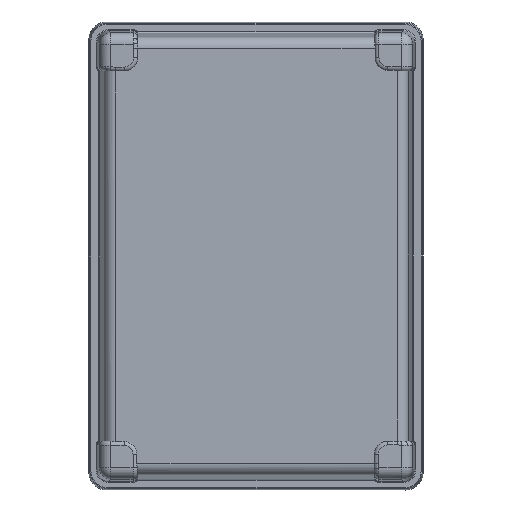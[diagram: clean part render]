
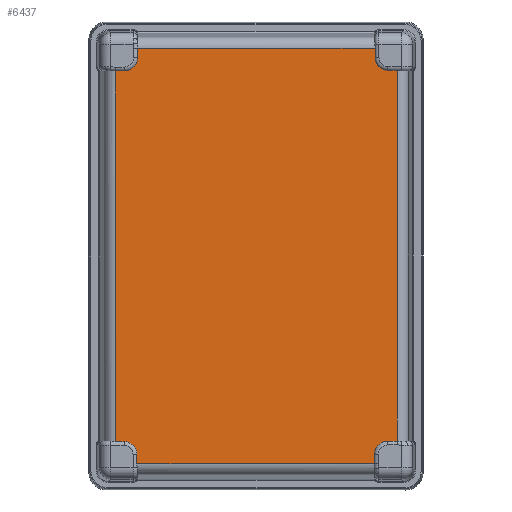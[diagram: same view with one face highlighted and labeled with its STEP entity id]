
A CAD part, front view. The second image highlights one B-rep face of the part: STEP entity #6437.
In plain terms, the highlighted planar face has unit normal (0, -1, 0).
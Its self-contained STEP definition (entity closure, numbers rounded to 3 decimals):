
#1893=DIRECTION('',(-1.,0.,0.));
#1894=VECTOR('',#1893,106.599);
#1895=CARTESIAN_POINT('',(53.433,-68.,93.182));
#1896=LINE('2179',#1895,#1894);
#1999=DIRECTION('',(0.,0.,1.));
#2000=VECTOR('',#1999,166.329);
#2001=CARTESIAN_POINT('',(63.317,-68.,
-83.031));
#2002=LINE('2195',#2001,#2000);
#2012=CARTESIAN_POINT('',(59.165,-68.,89.031));
#2013=DIRECTION('',(0.,-1.,0.));
#2014=DIRECTION('',(-1.,0.,0.));
#2015=AXIS2_PLACEMENT_3D('',#2012,#2013,#2014);
#2017=CARTESIAN_POINT('',(59.165,-68.,89.031));
#2018=DIRECTION('',(0.,-1.,0.));
#2019=DIRECTION('',(-0.707,0.,-0.707));
#2020=AXIS2_PLACEMENT_3D('',#2017,#2018,#2019);
#2022=CARTESIAN_POINT('',(59.165,-68.,-89.031));
#2023=DIRECTION('',(0.,-1.,0.));
#2024=DIRECTION('',(0.,0.,1.));
#2025=AXIS2_PLACEMENT_3D('',#2022,#2023,#2024);
#2027=CARTESIAN_POINT('',(-59.165,-68.,-89.031));
#2028=DIRECTION('',(0.,-1.,0.));
#2029=DIRECTION('',(1.,0.,0.));
#2030=AXIS2_PLACEMENT_3D('',#2027,#2028,#2029);
#2032=CARTESIAN_POINT('',(-59.165,-68.,-89.031));
#2033=DIRECTION('',(0.,-1.,0.));
#2034=DIRECTION('',(0.707,0.,0.707));
#2035=AXIS2_PLACEMENT_3D('',#2032,#2033,#2034);
#2037=CARTESIAN_POINT('',(-59.165,-68.,89.031));
#2038=DIRECTION('',(0.,-1.,0.));
#2039=DIRECTION('',(0.,0.,-1.));
#2040=AXIS2_PLACEMENT_3D('',#2037,#2038,#2039);
#2046=DIRECTION('',(0.,0.,1.));
#2047=VECTOR('',#2046,4.151);
#2048=CARTESIAN_POINT('',(53.433,-68.,89.031));
#2049=LINE('2200',#2048,#2047);
#2050=CARTESIAN_POINT('',(53.433,-68.,93.182));
#2087=DIRECTION('',(-1.,0.,0.));
#2088=VECTOR('',#2087,4.151);
#2089=CARTESIAN_POINT('',(63.317,-68.,83.298));
#2090=LINE('2203',#2089,#2088);
#2101=DIRECTION('',(1.,0.,0.));
#2102=VECTOR('',#2101,4.151);
#2103=CARTESIAN_POINT('',(59.165,-68.,-83.031));
#2104=LINE('2204',#2103,#2102);
#2218=DIRECTION('',(1.,0.,0.));
#2219=VECTOR('',#2218,106.599);
#2220=CARTESIAN_POINT('',(-53.433,-68.,
-93.182));
#2221=LINE('2207',#2220,#2219);
#2344=DIRECTION('',(0.,0.,-1.));
#2345=VECTOR('',#2344,166.329);
#2346=CARTESIAN_POINT('',(-63.182,-68.,
83.031));
#2347=LINE('2212',#2346,#2345);
#2376=DIRECTION('',(1.,0.,0.));
#2377=VECTOR('',#2376,4.017);
#2378=CARTESIAN_POINT('',(-63.182,-68.,
-83.298));
#2379=LINE('2211',#2378,#2377);
#2404=DIRECTION('',(0.,0.,-1.));
#2405=VECTOR('',#2404,4.151);
#2406=CARTESIAN_POINT('',(-53.433,-68.,
-89.031));
#2407=LINE('2208',#2406,#2405);
#2529=DIRECTION('',(0.,0.,-1.));
#2530=VECTOR('',#2529,4.151);
#2531=CARTESIAN_POINT('',(-53.165,-68.,
93.182));
#2532=LINE('2215',#2531,#2530);
#2547=DIRECTION('',(-1.,0.,0.));
#2548=VECTOR('',#2547,4.017);
#2549=CARTESIAN_POINT('',(-59.165,-68.,83.031));
#2550=LINE('2213',#2549,#2548);
#2632=DIRECTION('',(0.,0.,1.));
#2633=VECTOR('',#2632,4.151);
#2634=CARTESIAN_POINT('',(53.165,-68.,
-93.182));
#2635=LINE('2206',#2634,#2633);
#4120=VERTEX_POINT('',#2050);
#4121=CARTESIAN_POINT('',(-53.165,-68.,
93.182));
#4122=VERTEX_POINT('',#4121);
#4136=CARTESIAN_POINT('',(63.317,-68.,
-83.031));
#4137=CARTESIAN_POINT('',(63.317,-68.,83.298));
#4138=VERTEX_POINT('',#4136);
#4139=VERTEX_POINT('',#4137);
#4144=CARTESIAN_POINT('',(53.433,-68.,89.031));
#4145=VERTEX_POINT('',#4144);
#4146=CARTESIAN_POINT('',(55.113,-68.,84.977));
#4147=VERTEX_POINT('',#4146);
#4148=CARTESIAN_POINT('',(59.165,-68.,83.298));
#4149=VERTEX_POINT('',#4148);
#4150=CARTESIAN_POINT('',(59.165,-68.,-83.031));
#4151=VERTEX_POINT('',#4150);
#4152=CARTESIAN_POINT('',(53.165,-68.,-89.031));
#4153=VERTEX_POINT('',#4152);
#4154=CARTESIAN_POINT('',(53.165,-68.,
-93.182));
#4155=VERTEX_POINT('',#4154);
#4156=CARTESIAN_POINT('',(-53.433,-68.,
-93.182));
#4157=VERTEX_POINT('',#4156);
#4158=CARTESIAN_POINT('',(-53.433,-68.,
-89.031));
#4159=VERTEX_POINT('',#4158);
#4160=CARTESIAN_POINT('',(-55.113,-68.,-84.977));
#4161=VERTEX_POINT('',#4160);
#4162=CARTESIAN_POINT('',(-59.165,-68.,-83.298));
#4163=VERTEX_POINT('',#4162);
#4164=CARTESIAN_POINT('',(-63.182,-68.,
-83.298));
#4165=VERTEX_POINT('',#4164);
#4166=CARTESIAN_POINT('',(-63.182,-68.,
83.031));
#4167=VERTEX_POINT('',#4166);
#4168=CARTESIAN_POINT('',(-59.165,-68.,83.031));
#4169=VERTEX_POINT('',#4168);
#4170=CARTESIAN_POINT('',(-53.165,-68.,89.031));
#4171=VERTEX_POINT('',#4170);
#6396=CARTESIAN_POINT('',(0.067,-68.,0.));
#6397=DIRECTION('',(0.,1.,0.));
#6398=DIRECTION('',(1.,0.,0.));
#6399=AXIS2_PLACEMENT_3D('',#6396,#6397,#6398);
#6400=PLANE('2634',#6399);
#6401=ORIENTED_EDGE('2179',*,*,#6264,.F.);
#6403=ORIENTED_EDGE('2200',*,*,#6402,.F.);
#6405=ORIENTED_EDGE('2201',*,*,#6404,.T.);
#6407=ORIENTED_EDGE('2202',*,*,#6406,.T.);
#6409=ORIENTED_EDGE('2203',*,*,#6408,.F.);
#6410=ORIENTED_EDGE('2195',*,*,#6378,.F.);
#6412=ORIENTED_EDGE('2204',*,*,#6411,.F.);
#6414=ORIENTED_EDGE('2205',*,*,#6413,.T.);
#6416=ORIENTED_EDGE('2206',*,*,#6415,.F.);
#6418=ORIENTED_EDGE('2207',*,*,#6417,.F.);
#6420=ORIENTED_EDGE('2208',*,*,#6419,.F.);
#6422=ORIENTED_EDGE('2209',*,*,#6421,.T.);
#6424=ORIENTED_EDGE('2210',*,*,#6423,.T.);
#6426=ORIENTED_EDGE('2211',*,*,#6425,.F.);
#6428=ORIENTED_EDGE('2212',*,*,#6427,.F.);
#6430=ORIENTED_EDGE('2213',*,*,#6429,.F.);
#6432=ORIENTED_EDGE('2214',*,*,#6431,.T.);
#6434=ORIENTED_EDGE('2215',*,*,#6433,.F.);
#6435=EDGE_LOOP('2634',(#6401,#6403,#6405,#6407,#6409,#6410,#6412,#6414,#6416,
#6418,#6420,#6422,#6424,#6426,#6428,#6430,#6432,#6434));
#6436=FACE_OUTER_BOUND('2634',#6435,.F.);
#6437=ADVANCED_FACE('2634',(#6436),#6400,.F.);
#2016=CIRCLE('2201',#2015,5.732);
#2021=CIRCLE('2202',#2020,5.732);
#2026=CIRCLE('2205',#2025,6.);
#2031=CIRCLE('2209',#2030,5.732);
#2036=CIRCLE('2210',#2035,5.732);
#2041=CIRCLE('2214',#2040,6.);
#6264=EDGE_CURVE('2179',#4120,#4122,#1896,.T.);
#6378=EDGE_CURVE('2195',#4138,#4139,#2002,.T.);
#6402=EDGE_CURVE('2200',#4145,#4120,#2049,.T.);
#6404=EDGE_CURVE('2201',#4145,#4147,#2016,.T.);
#6406=EDGE_CURVE('2202',#4147,#4149,#2021,.T.);
#6408=EDGE_CURVE('2203',#4139,#4149,#2090,.T.);
#6411=EDGE_CURVE('2204',#4151,#4138,#2104,.T.);
#6413=EDGE_CURVE('2205',#4151,#4153,#2026,.T.);
#6415=EDGE_CURVE('2206',#4155,#4153,#2635,.T.);
#6417=EDGE_CURVE('2207',#4157,#4155,#2221,.T.);
#6419=EDGE_CURVE('2208',#4159,#4157,#2407,.T.);
#6421=EDGE_CURVE('2209',#4159,#4161,#2031,.T.);
#6423=EDGE_CURVE('2210',#4161,#4163,#2036,.T.);
#6425=EDGE_CURVE('2211',#4165,#4163,#2379,.T.);
#6427=EDGE_CURVE('2212',#4167,#4165,#2347,.T.);
#6429=EDGE_CURVE('2213',#4169,#4167,#2550,.T.);
#6431=EDGE_CURVE('2214',#4169,#4171,#2041,.T.);
#6433=EDGE_CURVE('2215',#4122,#4171,#2532,.T.);
